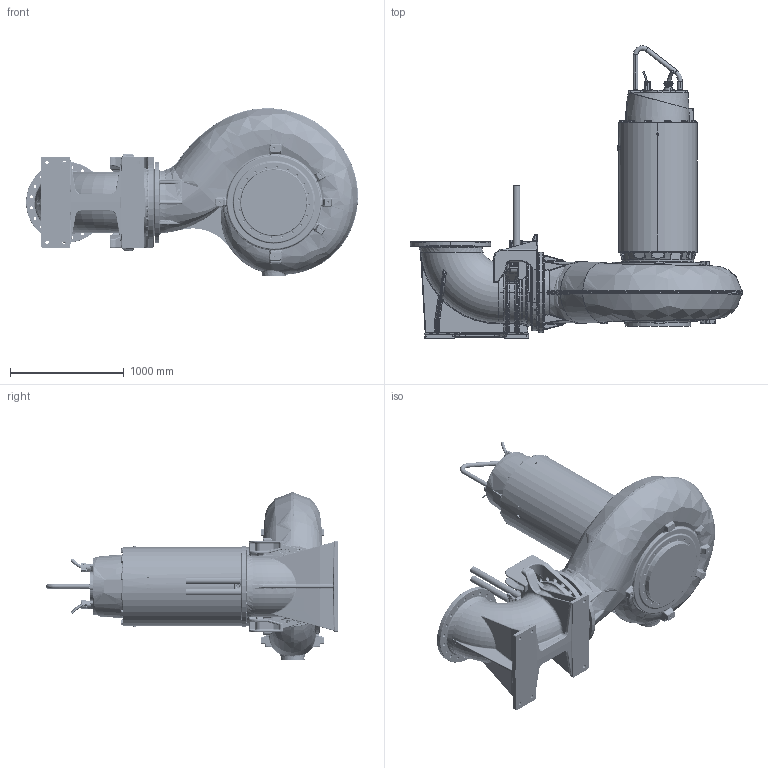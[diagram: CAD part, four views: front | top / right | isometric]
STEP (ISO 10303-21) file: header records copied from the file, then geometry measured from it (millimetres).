
FILE_DESCRIPTION (( 'STEP AP214' ), '1' );
FILE_NAME ('PE6_XFP501U-SK3_WET 2guide_B_NG2.STEP', '2017-03-29T04:31:46', ( '' ), ( '' ), 'SwSTEP 2.0', 'SolidWorks 2017', '' );
FILE_SCHEMA (( 'AUTOMOTIVE_DESIGN' ));
Length unit declared in the file: millimetre
Products named in the file (1): PE6_XFP501U-SK3_WET 2guide_B_NG2
Bounding box: 2913.14 x 2565.24 x 1469.42 mm (x, y, z)
Volume: 1635582945.1 mm3; surface area: 17249667.9 mm2
Topology: 4 solids, 21 shells, 5601 faces, 13658 edges, 7908 vertices
Faces by surface type: cylinder 1578, bspline 1523, plane 1207, torus 616, cone 394, sphere 283
Entity records: 322310 total; most frequent: CARTESIAN_POINT 142692, ORIENTED_EDGE 26594, DIRECTION 22405, EDGE_CURVE 13297, AXIS2_PLACEMENT_3D 9086, VERTEX_POINT 7877, EDGE_LOOP 5942, UNCERTAINTY_MEASURE_WITH_UNIT 5607
